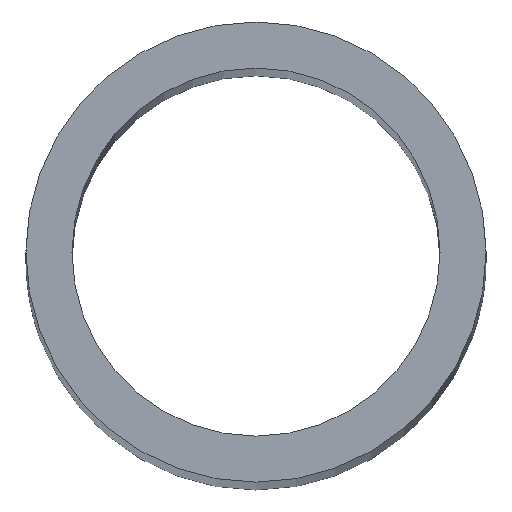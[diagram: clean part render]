
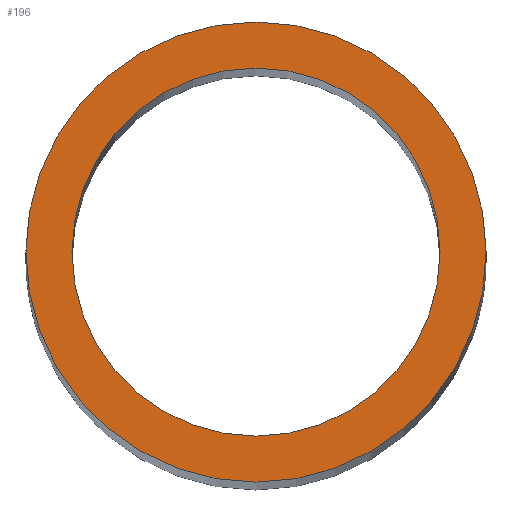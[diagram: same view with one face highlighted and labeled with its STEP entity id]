
A CAD part, top view. The second image highlights one B-rep face of the part: STEP entity #196.
In plain terms, the highlighted planar face has unit normal (0, 0, 1).
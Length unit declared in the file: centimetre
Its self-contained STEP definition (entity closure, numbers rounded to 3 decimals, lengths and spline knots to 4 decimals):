
#73 = VERTEX_POINT ( 'NONE', #948 ) ;
#74 = VERTEX_POINT ( 'NONE', #943 ) ;
#84 = EDGE_CURVE ( 'NONE', #115, #114, #857, .T. ) ;
#88 = EDGE_CURVE ( 'NONE', #73, #74, #885, .T. ) ;
#113 = EDGE_CURVE ( 'NONE', #114, #115, #1052, .T. ) ;
#114 = VERTEX_POINT ( 'NONE', #1047 ) ;
#115 = VERTEX_POINT ( 'NONE', #1046 ) ;
#196 = ADVANCED_FACE ( 'NONE', ( #1359, #1358 ), #1357, .F. ) ;
#197 = EDGE_LOOP ( 'NONE', ( #198, #200 ) ) ;
#198 = ORIENTED_EDGE ( 'NONE', *, *, #199, .F. ) ;
#199 = EDGE_CURVE ( 'NONE', #74, #73, #1352, .T. ) ;
#200 = ORIENTED_EDGE ( 'NONE', *, *, #88, .F. ) ;
#201 = EDGE_LOOP ( 'NONE', ( #202, #203 ) ) ;
#202 = ORIENTED_EDGE ( 'NONE', *, *, #113, .F. ) ;
#203 = ORIENTED_EDGE ( 'NONE', *, *, #84, .F. ) ;
#857 = CIRCLE ( 'NONE', #862, 1. ) ;
#862 = AXIS2_PLACEMENT_3D ( 'NONE', #889, #888, #887 ) ;
#881 = DIRECTION ( 'NONE',  ( 1., 0., 0. ) ) ;
#882 = DIRECTION ( 'NONE',  ( 0., 0., -1. ) ) ;
#883 = CARTESIAN_POINT ( 'NONE',  ( 0., 0., 24.4 ) ) ;
#884 = AXIS2_PLACEMENT_3D ( 'NONE', #883, #882, #881 ) ;
#885 = CIRCLE ( 'NONE', #884, 1.25 ) ;
#887 = DIRECTION ( 'NONE',  ( -1., 0., 0. ) ) ;
#888 = DIRECTION ( 'NONE',  ( 0., 0., 1. ) ) ;
#889 = CARTESIAN_POINT ( 'NONE',  ( 0., 0., 24.4 ) ) ;
#943 = CARTESIAN_POINT ( 'NONE',  ( 1.25, 0., 24.4 ) ) ;
#948 = CARTESIAN_POINT ( 'NONE',  ( -1.25, 0., 24.4 ) ) ;
#1046 = CARTESIAN_POINT ( 'NONE',  ( 1., 0., 24.4 ) ) ;
#1047 = CARTESIAN_POINT ( 'NONE',  ( -1., 0., 24.4 ) ) ;
#1048 = DIRECTION ( 'NONE',  ( -1., 0., 0. ) ) ;
#1049 = DIRECTION ( 'NONE',  ( 0., 0., 1. ) ) ;
#1050 = CARTESIAN_POINT ( 'NONE',  ( 0., 0., 24.4 ) ) ;
#1051 = AXIS2_PLACEMENT_3D ( 'NONE', #1050, #1049, #1048 ) ;
#1052 = CIRCLE ( 'NONE', #1051, 1. ) ;
#1348 = DIRECTION ( 'NONE',  ( 1., 0., 0. ) ) ;
#1349 = DIRECTION ( 'NONE',  ( 0., 0., -1. ) ) ;
#1350 = CARTESIAN_POINT ( 'NONE',  ( 0., 0., 24.4 ) ) ;
#1351 = AXIS2_PLACEMENT_3D ( 'NONE', #1350, #1349, #1348 ) ;
#1352 = CIRCLE ( 'NONE', #1351, 1.25 ) ;
#1353 = DIRECTION ( 'NONE',  ( -1., 0., 0. ) ) ;
#1354 = DIRECTION ( 'NONE',  ( 0., 0., -1. ) ) ;
#1355 = CARTESIAN_POINT ( 'NONE',  ( 0., 0., 24.4 ) ) ;
#1356 = AXIS2_PLACEMENT_3D ( 'NONE', #1355, #1354, #1353 ) ;
#1357 = PLANE ( 'NONE',  #1356 ) ;
#1358 = FACE_BOUND ( 'NONE', #201, .T. ) ;
#1359 = FACE_OUTER_BOUND ( 'NONE', #197, .T. ) ;
